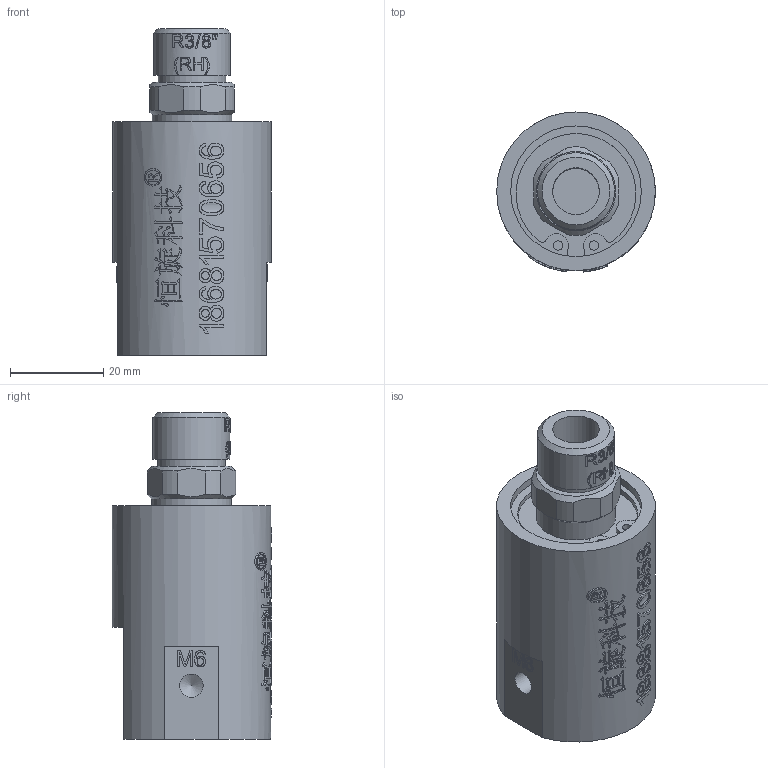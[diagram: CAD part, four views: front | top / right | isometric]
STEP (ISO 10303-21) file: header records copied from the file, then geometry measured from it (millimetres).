
FILE_DESCRIPTION(/* description */ (''),/* implementation_level */ '2;1');
FILE_NAME(/* name */ 'HC0103(RH)-3D模型.stp',/* time_stamp */ '2025-07-07T09:34:47+08:00',/* author */ (''),/* organization */ (''),/* preprocessor_version */ 'ST-DEVELOPER v16.7',/* originating_system */ 'SIEMENS PLM Software NX 12.0',/* authorisation */ '');
FILE_SCHEMA (('AUTOMOTIVE_DESIGN { 1 0 10303 214 3 1 1 1 }'));
Length unit declared in the file: millimetre
Products named in the file (1): Admi1AA49A9B08on
Bounding box: 34 x 34.23 x 70 mm (x, y, z)
Volume: 40802.9 mm3; surface area: 11709.1 mm2
Topology: 1 solids, 1 shells, 1026 faces, 2843 edges, 1896 vertices
Faces by surface type: extrusion 598, plane 332, bspline 48, cylinder 43, cone 5
Full cylindrical faces by diameter (mm): 2 x2, 5 x2, 10 x2, 14.5 x1, 15 x1, 16.5 x1, 17 x1, 28 x1, 29.5 x1, 34 x1
Entity records: 41567 total; most frequent: CARTESIAN_POINT 19872, ORIENTED_EDGE 5622, B_SPLINE_CURVE_WITH_KNOTS 2884, EDGE_CURVE 2811, DIRECTION 2124, VERTEX_POINT 1885, EDGE_LOOP 1124, ADVANCED_FACE 1026
